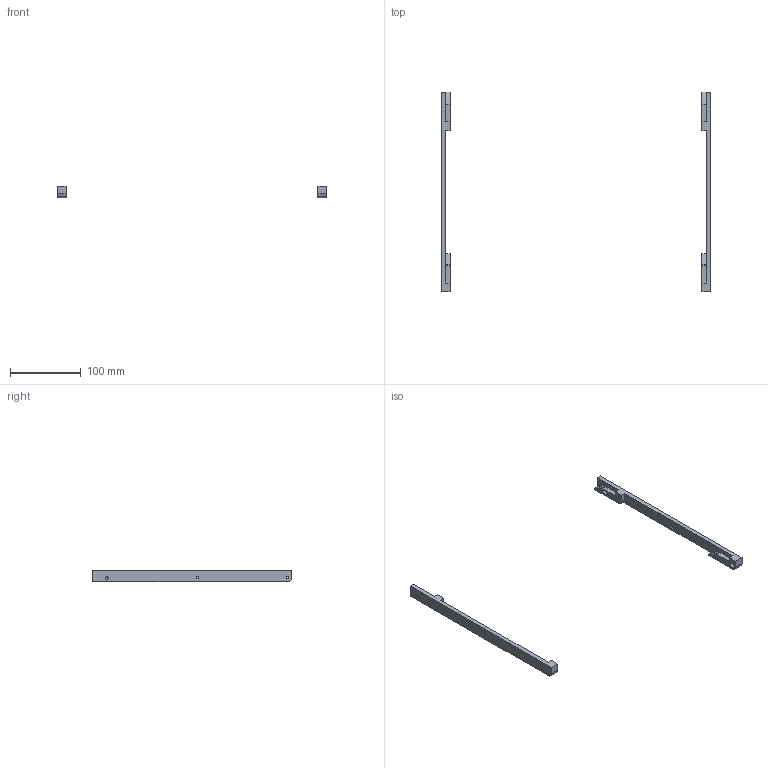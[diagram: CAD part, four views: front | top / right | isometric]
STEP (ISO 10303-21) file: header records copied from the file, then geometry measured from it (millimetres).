
FILE_DESCRIPTION(/* description */ (''),/* implementation_level */ '2;1');
FILE_NAME(/* name */ '2026_04_05_petesquared_poop_bin_racks.step',/* time_stamp */ '2026-04-05T08:45:49-07:00',/* author */ (''),/* organization */ (''),/* preprocessor_version */ 'ST-DEVELOPER v20.1',/* originating_system */ 'Autodesk Translation Framework v14.24.0.0',/* authorisation */ '');
FILE_SCHEMA (('AUTOMOTIVE_DESIGN { 1 0 10303 214 3 1 1 }'));
Length unit declared in the file: inch
Products named in the file (4): 3d_printer_stand_v3_optimized; printer; printer_shelf; poop_bin_chute
Assembly tree (3 placements, depth 4):
  3d_printer_stand_v3_optimized
    printer
      printer_shelf
        poop_bin_chute
Bounding box: 382.12 x 283.4 x 16.92 mm (x, y, z)
Volume: 73712.5 mm3; surface area: 30716.3 mm2
Topology: 2 solids, 2 shells, 64 faces, 170 edges, 110 vertices
Faces by surface type: plane 34, cylinder 24, cone 6
Full cylindrical faces by diameter (mm): 3.81 x6, 7.112 x4
Entity records: 2177 total; most frequent: CARTESIAN_POINT 392, DIRECTION 358, ORIENTED_EDGE 340, EDGE_CURVE 170, AXIS2_PLACEMENT_3D 120, LINE 118, VECTOR 118, VERTEX_POINT 110
